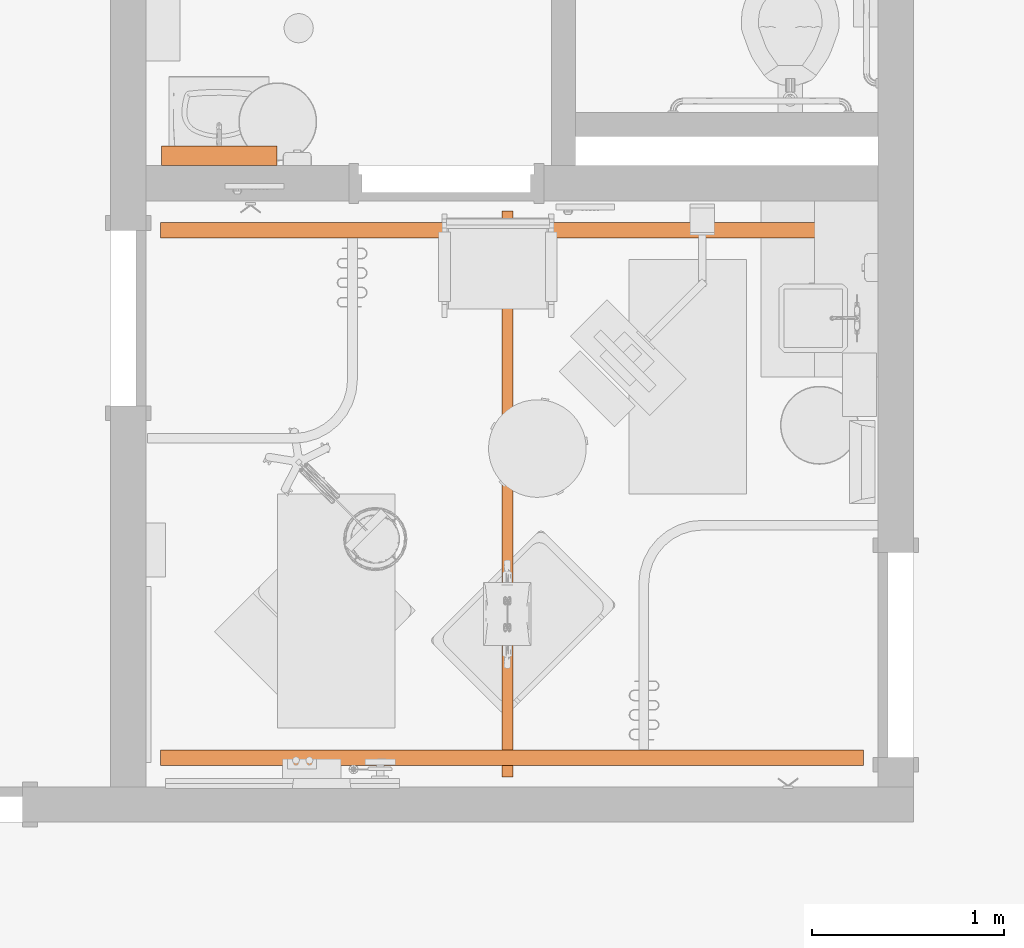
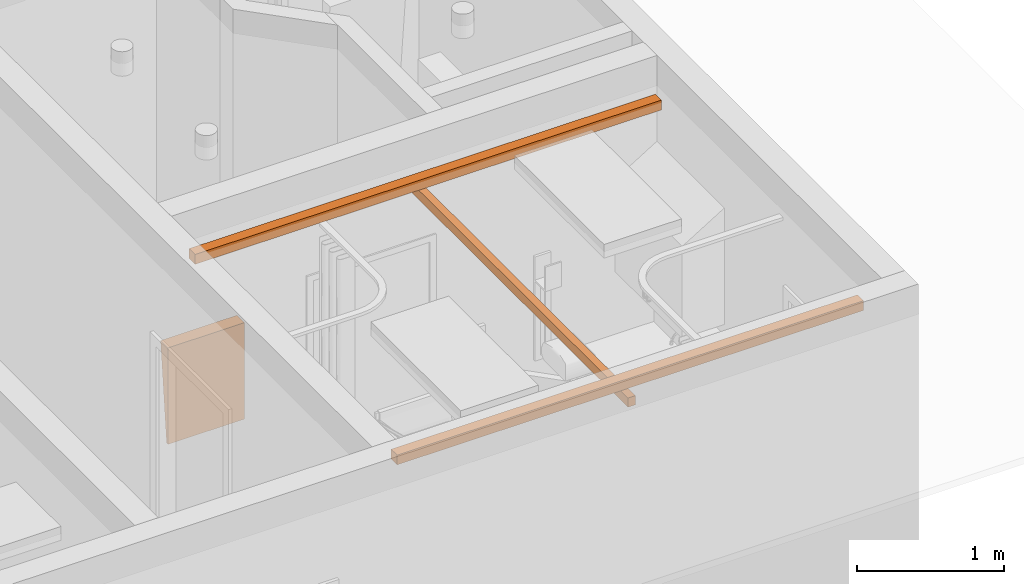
# One storey, part 19 of 142: 2 proxies.
"""IFC2X3 building model written with IfcOpenShell, lengths in feet."""

from ifc_helpers import new_model, entity, si_unit, converted_unit, derived_unit, direction, frame, frame_2d, origin, place, context, subcontext, project, spatial, polyline, rectangle, outline, extrude, source, transform, mapped, type_object, type_shapes, element, save


model = new_model("IFC2X3")

# Units and contexts
model_context = context("Model", 3, precision=0.0001, world=origin(), true_north=direction((6.12303176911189e-17, 1.0)))
body_context = subcontext(model_context, "Body", "Model", "MODEL_VIEW")
ifc_project = project(units=[converted_unit("LENGTHUNIT", "FOOT", entity("IfcRatioMeasure", 0.3048), si_unit("LENGTHUNIT", "METRE"), dimensions=[1, 0, 0, 0, 0, 0, 0]), converted_unit("AREAUNIT", "SQUARE FOOT", entity("IfcRatioMeasure", 0.09290304), si_unit("AREAUNIT", "SQUARE_METRE"), dimensions=[2, 0, 0, 0, 0, 0, 0]), converted_unit("VOLUMEUNIT", "CUBIC FOOT", entity("IfcRatioMeasure", 0.028316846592), si_unit("VOLUMEUNIT", "CUBIC_METRE"), dimensions=[3, 0, 0, 0, 0, 0, 0]), converted_unit("PLANEANGLEUNIT", "DEGREE", entity("IfcRatioMeasure", 0.0174532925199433), si_unit("PLANEANGLEUNIT", "RADIAN"), dimensions=[0, 0, 0, 0, 0, 0, 0]), si_unit("MASSUNIT", "GRAM", prefix="KILO"), derived_unit("MASSDENSITYUNIT", [(si_unit("MASSUNIT", "GRAM", prefix="KILO"), 1), (si_unit("LENGTHUNIT", "METRE"), -3)]), si_unit("TIMEUNIT", "SECOND"), si_unit("FREQUENCYUNIT", "HERTZ"), si_unit("THERMODYNAMICTEMPERATUREUNIT", "DEGREE_CELSIUS"), derived_unit("THERMALTRANSMITTANCEUNIT", [(si_unit("MASSUNIT", "GRAM", prefix="KILO"), 1), (si_unit("THERMODYNAMICTEMPERATUREUNIT", "KELVIN"), -1), (si_unit("TIMEUNIT", "SECOND"), -3)]), derived_unit("VOLUMETRICFLOWRATEUNIT", [(si_unit("LENGTHUNIT", "METRE"), 3), (si_unit("TIMEUNIT", "SECOND"), -1)]), si_unit("ELECTRICCURRENTUNIT", "AMPERE"), si_unit("ELECTRICVOLTAGEUNIT", "VOLT"), si_unit("POWERUNIT", "WATT"), si_unit("FORCEUNIT", "NEWTON"), si_unit("ILLUMINANCEUNIT", "LUX"), si_unit("LUMINOUSFLUXUNIT", "LUMEN"), si_unit("LUMINOUSINTENSITYUNIT", "CANDELA"), derived_unit("USERDEFINED", [(si_unit("MASSUNIT", "GRAM", prefix="KILO"), -1), (si_unit("LENGTHUNIT", "METRE"), -2), (si_unit("TIMEUNIT", "SECOND"), 3), (si_unit("LUMINOUSFLUXUNIT", "LUMEN"), 1)]), derived_unit("LINEARVELOCITYUNIT", [(si_unit("LENGTHUNIT", "METRE"), 1), (si_unit("TIMEUNIT", "SECOND"), -1)]), si_unit("PRESSUREUNIT", "PASCAL"), derived_unit("USERDEFINED", [(si_unit("LENGTHUNIT", "METRE"), -2), (si_unit("MASSUNIT", "GRAM", prefix="KILO"), 1), (si_unit("TIMEUNIT", "SECOND"), -2)])], contexts=[model_context])

# Site, building, storey, space
site_placement = place(None, origin())
site = spatial("IfcSite", under=ifc_project, at=site_placement, Name="Default", CompositionType="ELEMENT")
building_placement = place(site_placement, origin())
building = spatial("IfcBuilding", under=site, at=building_placement, Name="OUTPATIENT / PACT CLINIC (Ch. 265)", CompositionType="ELEMENT")
storey_placement = place(building_placement, origin())
storey = spatial("IfcBuildingStorey", under=building, at=storey_placement, Name="LEVEL 1", CompositionType="ELEMENT", Elevation=0.0)
space_1_placement = place(storey_placement, origin())
space_1 = spatial("IfcSpace", under=storey, at=space_1_placement, Name="TPG01", CompositionType="ELEMENT", InteriorOrExteriorSpace="INTERNAL")

# Proxy
building_element_proxy_type_1 = type_object("IfcBuildingElementProxyType", Name="A1067 - Mirror, Float Glass, ADA Accessible 12\"x 6\"", PredefinedType="NOTDEFINED")
shared_shape_1 = source(origin(), body_context, "Body", "SweptSolid", [
    extrude(outline(polyline([(-0.0997375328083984, -1.31233595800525), (0.233595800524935, -1.31233595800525), (-0.0341207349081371, 1.31233595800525), (-0.0997375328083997, 1.31233595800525), (-0.0997375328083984, -1.31233595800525)])), frame((0.0, -0.0997375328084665, 1.31266404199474), z_axis=(1.0, 0.0, 0.0), x_axis=(0.0, -1.0, 0.0)), (0.0, 0.0, 1.0), 1.96850393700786),
])
type_shapes(building_element_proxy_type_1, [shared_shape_1])
proxy_1_placement = place(space_1_placement, frame((437.48931979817, -942.045489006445, 3.33333333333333), z_axis=(0.0, 0.0, 1.0), x_axis=(-1.0, 0.0, 0.0)))
element("IfcBuildingElementProxy", 1, at=proxy_1_placement, inside=space_1, type_object=building_element_proxy_type_1, Name="A1067 - Mirror, Float Glass, ADA Accessible:A1067 - Mirror, Float Glass, ADA Accessible 12\"x 6\"", ObjectType="A1067 - Mirror, Float Glass, ADA Accessible 12\"x 6\"", context=body_context, shape_type="MappedRepresentation", body=[
    mapped(shared_shape_1, transform((0.0, 0.0, 0.0), scale=1.0)),
])

# Space
space_2_placement = place(storey_placement, origin())
space_2 = spatial("IfcSpace", under=storey, at=space_2_placement, Name="EXW01", CompositionType="ELEMENT", InteriorOrExteriorSpace="INTERNAL")

# Proxy
building_element_proxy_type_2 = type_object("IfcBuildingElementProxyType", Name="A1203 Lift System, Overhead, Bariatric", PredefinedType="NOTDEFINED")
shared_shape_2 = source(origin(), body_context, "Body", "SweptSolid", [
    extrude(rectangle(XDim=9.66757011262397, YDim=0.190288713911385, at=frame_2d((0.0, -6.93889390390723e-18), x_axis=(1.0, 0.0))), frame((0.244358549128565, 0.0796819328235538, 8.63910761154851), z_axis=(0.0, 0.0, 1.0), x_axis=(-1.0, 0.0, 0.0)), (0.0, 0.0, 1.0), 0.249343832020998),
    extrude(rectangle(XDim=11.9998599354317, YDim=0.267060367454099, at=frame_2d((0.0, 4.44089209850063e-16), x_axis=(1.0, 0.0))), frame((4.74481027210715, 0.0, 8.99015748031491), z_axis=(0.0, 0.0, 1.0), x_axis=(0.0, 1.0, 0.0)), (0.0, 0.0, 1.0), 0.265748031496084),
    extrude(rectangle(XDim=11.9998599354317, YDim=0.267060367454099, at=frame_2d((0.0, 4.44089209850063e-16), x_axis=(1.0, 0.0))), frame((-4.25609317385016, 0.0, 8.99015748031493), z_axis=(0.0, 0.0, 1.0), x_axis=(0.0, 1.0, 0.0)), (0.0, 0.0, 1.0), 0.265748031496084),
])
type_shapes(building_element_proxy_type_2, [shared_shape_2])
proxy_2_placement = place(space_2_placement, frame((441.505198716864, -947.894465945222, 0.0), z_axis=(0.0, 0.0, 1.0), x_axis=(0.0, 1.0, 0.0)))
element("IfcBuildingElementProxy", 2, at=proxy_2_placement, inside=space_2, type_object=building_element_proxy_type_2, Name="A1203 Lift System, Overhead, Bariatric (Traverse):A1203 Lift System, Overhead, Bariatric", ObjectType="A1203 Lift System, Overhead, Bariatric", context=body_context, shape_type="MappedRepresentation", body=[
    mapped(shared_shape_2, transform((0.0, 0.0, 0.0), scale=1.0)),
])

save(model, "model.ifc")
